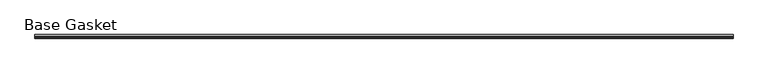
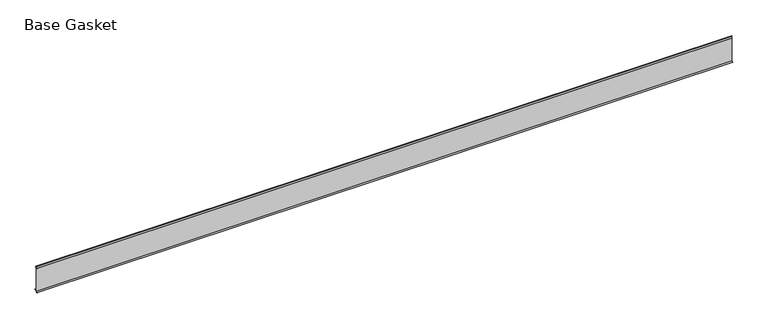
"""IFC4 building model written with IfcOpenShell, lengths in millimetres: furniture geometry, Gasket-Teknion-FHGB-AI_Healthcare-R2021 : Base Gasket."""

from ifc_helpers import new_model, si_unit, frame, origin, place, context, project, spatial, polyline, outline, extrude, source, transform, mapped, element, save


def base_gasket_f6f9601b(model_context):
    return source(origin(), model_context, "Body", "SweptSolid", [
        extrude(outline(polyline([(-3.7283812, 98.4568417), (-1.1891543, 104.587663), (-0.6755308, 105.2002997), (-0.6755308, 104.4162708), (-2.2043812, 98.4568417), (-2.2043812, 96.8693477), (-1.4106313, 96.8693477), (-1.4106313, 71.4693447), (-2.2043812, 71.4693447), (-2.2043812, 7.9398773), (6.2405171, 7.9398773), (6.2405171, 6.3818476), (-2.1334222, 6.3818476), (-2.2043812, 4.3498477), (-6.8281054, 0.3520979), (-7.8482342, 0.0), (-7.4222115, 0.6560174), (-3.7283812, 4.3498477), (-3.7283812, 98.4568417)])), frame((-1527.8982117, 0.0, 0.0), z_axis=(1.0, 0.0, 0.0), x_axis=(0.0, 1.0, 0.0)), (0.0, 0.0, 1.0), 2716.2084771),
    ])


if __name__ == "__main__":
    model = new_model("IFC4")
    model_context = context("Model", 3, world=origin())
    ifc_project = project(units=[si_unit("LENGTHUNIT", "METRE", prefix="MILLI")], contexts=[model_context])
    site = spatial("IfcSite", under=ifc_project)
    building = spatial("IfcBuilding", under=site)
    placement = place(None, origin())
    base_gasket_shape = base_gasket_f6f9601b(model_context)
    element("IfcFurniture", 1, ObjectType="Gasket-Teknion-FHGB-AI_Healthcare-R2021 : Base Gasket", at=placement, inside=building, context=model_context, shape_type="MappedRepresentation", body=[
        mapped(base_gasket_shape, transform((0.0, 0.0, 0.0), x_axis=(1.0, 0.0, 0.0), y_axis=(0.0, 1.0, 0.0), z_axis=(0.0, 0.0, 1.0))),
    ])
    save(model, "model.ifc")
